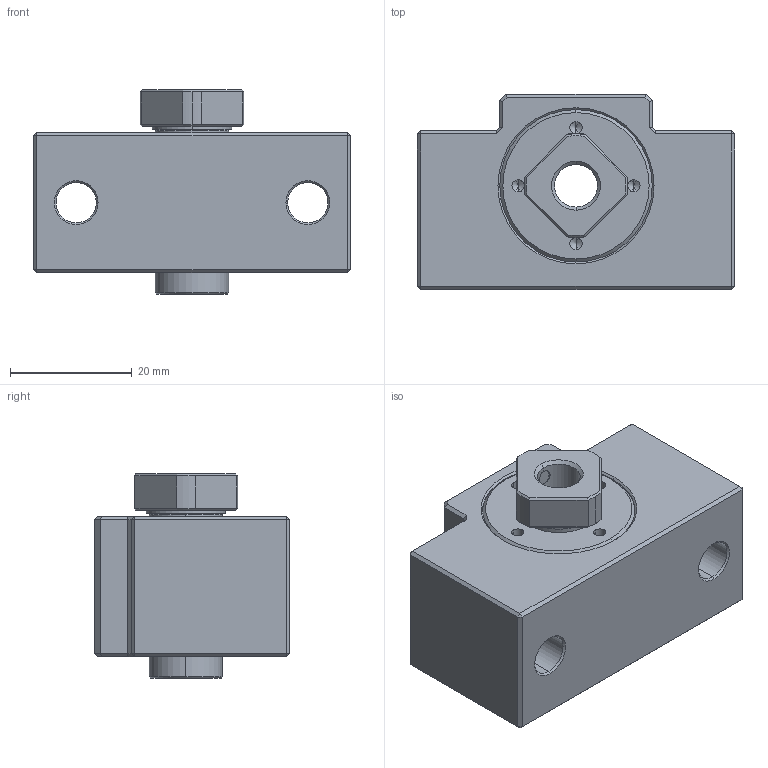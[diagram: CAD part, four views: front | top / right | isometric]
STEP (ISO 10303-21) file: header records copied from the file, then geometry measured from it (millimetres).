
FILE_DESCRIPTION (( 'STEP AP203' ), '1' );
FILE_NAME ('BSGK-8-P0-C7_203.STEP', '2013-02-27T23:57:31', ( '' ), ( '' ), 'SwSTEP 2.0', 'SolidWorks 2012', '' );
FILE_SCHEMA (( 'CONFIG_CONTROL_DESIGN' ));
Length unit declared in the file: millimetre
Products named in the file (1): BSGK-8-P0-C7_203
Bounding box: 52 x 32 x 33.5 mm (x, y, z)
Volume: 31490.1 mm3; surface area: 11103.4 mm2
Topology: 1 solids, 6 shells, 238 faces, 509 edges, 289 vertices
Faces by surface type: plane 90, cone 68, cylinder 64, torus 16
Entity records: 6432 total; most frequent: DIRECTION 1167, CARTESIAN_POINT 1162, ORIENTED_EDGE 998, EDGE_CURVE 499, AXIS2_PLACEMENT_3D 452, VERTEX_POINT 289, EDGE_LOOP 268, LINE 263
